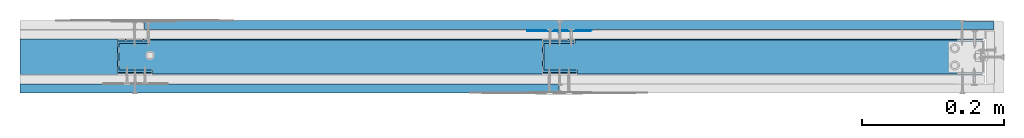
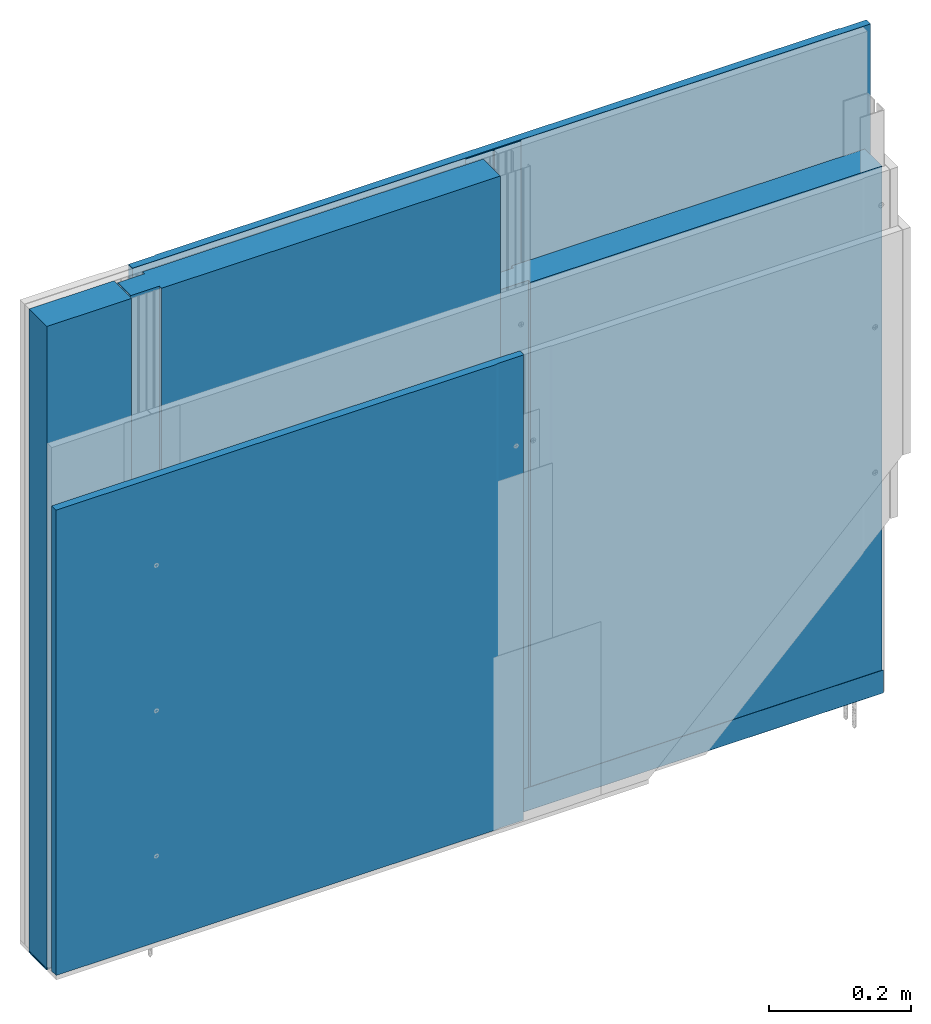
# One storey, part 1 of 52: 8 walls.
"""IFC2X3 building model written with IfcOpenShell, lengths in millimetres."""

import ifcopenshell
import ifcopenshell.guid

model = None  # the IFC model being written
_history = None  # IfcOwnerHistory: only IFC2X3 demands one
_inside = {}  # id of a spatial element -> (the spatial element, [elements in it])
_under = {}  # id of a project, library or spatial element -> (it, [spatial elements below it])
_declared = {}  # id of a project -> (the project, [libraries it declares])
_typed = {}  # id of a type object -> (the type object, [elements of that type])
_made_of = {}  # id of a material, layer set ... -> (it, [elements and type objects made of it])


def new_model(schema):
    """Start an empty IFC model of exactly this schema.

    Asked for "IFC4X3", IfcOpenShell would pick the latest addendum, in which some entities
    have other attributes; the version numbers below select the first issue.
    IFC2X3 requires an IfcOwnerHistory on every rooted entity: one is made here for all.
    """
    global model, _history
    if schema == "IFC4X3":
        model = ifcopenshell.file(schema_version=(4, 3, 0, 0))
    else:
        model = ifcopenshell.file(schema=schema)
    _inside.clear()
    _under.clear()
    _declared.clear()
    _typed.clear()
    _made_of.clear()
    _history = None
    if model.schema == "IFC2X3":
        org = make("IfcOrganization", Name="unknown")
        user = make(
            "IfcPersonAndOrganization",
            ThePerson=make("IfcPerson", FamilyName="unknown"),
            TheOrganization=org,
        )
        app = make(
            "IfcApplication",
            ApplicationDeveloper=org,
            Version="unknown",
            ApplicationFullName="unknown",
            ApplicationIdentifier="unknown",
        )
        _history = make(
            "IfcOwnerHistory",
            OwningUser=user,
            OwningApplication=app,
            ChangeAction="ADDED",
            CreationDate=0,
        )
    return model


def make(cls, **values):
    """One entity of the class cls with the attributes given. An attribute that is None is left unset."""
    return model.create_entity(
        cls, **{name: value for name, value in values.items() if value is not None}
    )


def entity(cls, *values):
    """Any entity or typed value of the class cls, its attributes in the order of the schema. None: left unset."""
    e = model.create_entity(cls)
    for i, value in enumerate(values):
        if value is not None:
            e[i] = value
    return e


def rooted(cls, **values):
    """An entity with a GlobalId (a new one), such as an element, a storey or a relation."""
    return make(cls, GlobalId=ifcopenshell.guid.new(), OwnerHistory=_history, **values)


def si_unit(unit_type, name, prefix=None):
    """IfcSIUnit, for example si_unit("LENGTHUNIT", "METRE", prefix="MILLI")."""
    return make("IfcSIUnit", UnitType=unit_type, Prefix=prefix, Name=name)


def converted_unit(unit_type, name, factor, base, dimensions=None, offset=None):
    """IfcConversionBasedUnit, such as the inch: factor (a typed value) times the base unit."""
    return make(
        "IfcConversionBasedUnit"
        if offset is None
        else "IfcConversionBasedUnitWithOffset",
        ConversionOffset=offset,
        Dimensions=None
        if dimensions is None
        else entity("IfcDimensionalExponents", *dimensions),
        UnitType=unit_type,
        Name=name,
        ConversionFactor=make(
            "IfcMeasureWithUnit", ValueComponent=factor, UnitComponent=base
        ),
    )


def assignment(units):
    """IfcUnitAssignment: the units of a project."""
    return None if units is None else make("IfcUnitAssignment", Units=units)


def point(xyz):
    """IfcCartesianPoint."""
    return None if xyz is None else make("IfcCartesianPoint", Coordinates=xyz)


def direction(xyz):
    """IfcDirection."""
    return None if xyz is None else make("IfcDirection", DirectionRatios=xyz)


def frame(location, z_axis=None, x_axis=None):
    """IfcAxis2Placement3D, a coordinate frame: its origin and axes. An axis left out is left unset."""
    return make(
        "IfcAxis2Placement3D",
        Location=point(location),
        Axis=direction(z_axis),
        RefDirection=direction(x_axis),
    )


def origin():
    """The frame at (0, 0, 0) with its axes left unset."""
    return frame((0.0, 0.0, 0.0))


def origin_with_axes():
    """The frame at (0, 0, 0) with the z axis (0, 0, 1) and the x axis (1, 0, 0) written out."""
    return frame((0.0, 0.0, 0.0), z_axis=(0.0, 0.0, 1.0), x_axis=(1.0, 0.0, 0.0))


def place(relative_to, where):
    """IfcLocalPlacement: puts the frame where relative to a parent placement (None: the world)."""
    return make(
        "IfcLocalPlacement", PlacementRelTo=relative_to, RelativePlacement=where
    )


def context(
    kind, dimensions, precision=None, world=None, true_north=None, identifier=None
):
    """IfcGeometricRepresentationContext, for example the 3D "Model" context."""
    return make(
        "IfcGeometricRepresentationContext",
        ContextIdentifier=identifier,
        ContextType=kind,
        CoordinateSpaceDimension=dimensions,
        Precision=precision,
        WorldCoordinateSystem=world,
        TrueNorth=true_north,
    )


def project(units=None, contexts=None):
    """IfcProject with its units and contexts."""
    return rooted(
        "IfcProject",
        Name="project",
        RepresentationContexts=contexts,
        UnitsInContext=assignment(units),
    )


def spatial(cls, under=None, at=None, **own):
    """A site, building, storey or space (cls), placed at a placement, below another one or the project."""
    s = rooted(cls, ObjectPlacement=at, **own)
    if under is not None:
        _under.setdefault(under.id(), (under, []))[1].append(s)
    return s


def faces_of(points, faces, orient=None, outer=None):
    """IfcFace entities. A face is a list of loops; a loop is a list of indices into points, from 0.

    orient and outer hold one flag for each loop. By default every Orientation is true, the
    first loop of a face is its IfcFaceOuterBound and the others are IfcFaceBound.
    """
    made = []
    for i, loops in enumerate(faces):
        bounds = []
        for j, loop in enumerate(loops):
            is_outer = j == 0 if outer is None else outer[i][j]
            bounds.append(
                make(
                    "IfcFaceOuterBound" if is_outer else "IfcFaceBound",
                    Bound=make("IfcPolyLoop", Polygon=[points[k] for k in loop]),
                    Orientation=True if orient is None else orient[i][j],
                )
            )
        made.append(make("IfcFace", Bounds=bounds))
    return made


def faceted_brep(points, faces, orient=None, outer=None, voids=None):
    """IfcFacetedBrep: a solid bounded by flat faces; with voids (closed shells), ...WithVoids."""
    shared = [point(p) for p in points]
    hull = make("IfcClosedShell", CfsFaces=faces_of(shared, faces, orient, outer))
    if voids is None:
        return make("IfcFacetedBrep", Outer=hull)
    return make(
        "IfcFacetedBrepWithVoids",
        Outer=hull,
        Voids=[
            make(cls, CfsFaces=faces_of(shared, fs, o, b)) for cls, fs, o, b in voids
        ],
    )


def shape(context_of_items, identifier, shape_type, items):
    """IfcShapeRepresentation: the items that make up one representation, for example the "Body"."""
    return make(
        "IfcShapeRepresentation",
        ContextOfItems=context_of_items,
        RepresentationIdentifier=identifier,
        RepresentationType=shape_type,
        Items=items,
    )


def made_of(thing, what):
    """Note that an element or type object is made of a material, layer set ...; save() writes the relation."""
    if what is not None:
        _made_of.setdefault(what.id(), (what, []))[1].append(thing)
    return thing


def element(
    cls,
    number,
    at=None,
    inside=None,
    cuts=None,
    type_object=None,
    material=None,
    context=None,
    identifier="Body",
    shape_type=None,
    held_by="IfcProductDefinitionShape",
    body=None,
    shapes=None,
    **own,
):
    """One element of the class cls, such as IfcWall. Its Tag is "e" and its number.

    at: its placement. inside: the storey or other place that contains it. cuts: it is an
    opening in that element (IfcRelVoidsElement). A single representation is given by context,
    identifier, shape_type and body (its items); several are given by shapes. held_by: the class
    of the entity that holds the representations. save() writes the other relations.
    """
    e = rooted(cls, Tag="e%d" % number, ObjectPlacement=at, **own)
    if body is not None:
        shapes = [shape(context, identifier, shape_type, body)]
    if shapes is not None:
        e.Representation = make(held_by, Representations=shapes)
    if inside is not None:
        _inside.setdefault(inside.id(), (inside, []))[1].append(e)
    if cuts is not None:
        rooted(
            "IfcRelVoidsElement", RelatingBuildingElement=cuts, RelatedOpeningElement=e
        )
    if type_object is not None:
        _typed.setdefault(type_object.id(), (type_object, []))[1].append(e)
    return made_of(e, material)


def aggregate(whole, parts):
    """IfcRelAggregates: a whole, such as a stair, and the parts it consists of."""
    return rooted("IfcRelAggregates", RelatingObject=whole, RelatedObjects=parts)


def save(model, path):
    """Write the relations noted so far, then the file.

    IfcRelAggregates (storeys below a building ...), IfcRelContainedInSpatialStructure (elements
    in a storey), IfcRelDefinesByType, IfcRelAssociatesMaterial and IfcRelDeclares: one each for
    every whole, place, type object, material and project.
    """
    for whole, parts in _under.values():
        aggregate(whole, parts)
    for where, things in _inside.values():
        rooted(
            "IfcRelContainedInSpatialStructure",
            RelatedElements=things,
            RelatingStructure=where,
        )
    for kind, things in _typed.values():
        rooted("IfcRelDefinesByType", RelatedObjects=things, RelatingType=kind)
    for what, things in _made_of.values():
        rooted("IfcRelAssociatesMaterial", RelatedObjects=things, RelatingMaterial=what)
    for by, libraries in _declared.values():
        rooted("IfcRelDeclares", RelatingContext=by, RelatedDefinitions=libraries)
    model.write(path)


model = new_model("IFC2X3")

# Units and contexts
model_context = context("Model", 3, precision=1e-05, world=origin(), true_north=direction((0.0, 1.0, 0.0)))
ifc_project = project(units=[si_unit("LENGTHUNIT", "METRE", prefix="MILLI"), si_unit("AREAUNIT", "SQUARE_METRE"), si_unit("VOLUMEUNIT", "CUBIC_METRE"), converted_unit("PLANEANGLEUNIT", "DEGREE", entity("IfcPlaneAngleMeasure", 0.01745), si_unit("PLANEANGLEUNIT", "RADIAN"), dimensions=[0, 0, 0, 0, 0, 0, 0]), si_unit("SOLIDANGLEUNIT", "STERADIAN"), si_unit("MASSUNIT", "GRAM"), si_unit("TIMEUNIT", "SECOND"), si_unit("THERMODYNAMICTEMPERATUREUNIT", "DEGREE_CELSIUS"), si_unit("LUMINOUSINTENSITYUNIT", "LUMEN")], contexts=[model_context])

# Site, building, storey
site_placement = place(None, origin_with_axes())
site = spatial("IfcSite", under=ifc_project, at=site_placement, Name="Default Site", CompositionType="ELEMENT")
building_placement = place(site_placement, origin_with_axes())
building = spatial("IfcBuilding", under=site, at=building_placement, Name="Default Building", CompositionType="ELEMENT")
storey_placement = place(building_placement, origin_with_axes())
storey = spatial("IfcBuildingStorey", under=building, at=storey_placement, Name="Default Building Storey", CompositionType="ELEMENT", Elevation=0.0)

# Walls
wall_1_placement = place(storey_placement, frame((3623.888865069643, -1355.915798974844, 353.1766678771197), z_axis=(0.0, 0.0, 1.0), x_axis=(1.0, 0.0, 0.0)))
element("IfcWall", 1, at=wall_1_placement, inside=storey, Name="Dedykowana masa szpachlowa Rigips - konstrukcyjna", context=model_context, shape_type="Brep", body=[
    faceted_brep([(-737.4838396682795, 3387.669590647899, 806.8233321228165), (-737.4592163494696, 3387.356721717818, 806.8233321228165), (-737.4345930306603, 3387.669590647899, 806.8233321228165), (-737.3613293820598, 3387.974755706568, 806.8233321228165), (-737.2412293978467, 3388.264702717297, 806.8233321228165), (-737.0772503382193, 3388.532292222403, 806.8233321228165), (-736.8734299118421, 3388.770935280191, 806.8233321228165), (-736.6347868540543, 3388.974755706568, 806.8233321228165), (-736.3671973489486, 3389.138734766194, 806.8233321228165), (-736.0772503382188, 3389.258834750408, 806.8233321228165), (-735.7720852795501, 3389.332098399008, 806.8233321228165), (-735.4592163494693, 3389.356721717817, 806.8233321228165), (-692.4592163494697, 3389.356721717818, 806.8233321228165), (-691.4592163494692, 3390.556721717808, 806.8233321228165), (-782.4592163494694, 3390.556721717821, 806.8233321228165), (-782.4592163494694, 3389.356721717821, 806.8233321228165), (-739.4592163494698, 3389.356721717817, 806.8233321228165), (-739.146347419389, 3389.332098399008, 806.8233321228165), (-738.8411823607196, 3389.258834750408, 806.8233321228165), (-738.5512353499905, 3389.138734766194, 806.8233321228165), (-738.2836458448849, 3388.974755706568, 806.8233321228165), (-738.045002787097, 3388.770935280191, 806.8233321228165), (-737.8411823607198, 3388.532292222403, 806.8233321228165), (-737.6772033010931, 3388.264702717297, 806.8233321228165), (-737.5571033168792, 3387.974755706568, 806.8233321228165), (-691.4592163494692, 3390.556721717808, -293.1782495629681), (-692.4592163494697, 3389.356721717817, -293.1782495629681), (-735.4592163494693, 3389.356721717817, -293.1782495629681), (-735.7720852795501, 3389.332098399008, -293.1782495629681), (-736.0772503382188, 3389.258834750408, -293.1782495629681), (-736.3671973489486, 3389.138734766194, -293.1782495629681), (-736.6347868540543, 3388.974755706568, -293.1782495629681), (-736.8734299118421, 3388.77093528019, -293.1782495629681), (-737.0772503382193, 3388.532292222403, -293.1782495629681), (-737.2412293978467, 3388.264702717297, -293.1782495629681), (-737.3613293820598, 3387.974755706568, -293.1782495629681), (-737.4345930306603, 3387.669590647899, -293.1782495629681), (-737.4592163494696, 3387.356721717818, -293.1782495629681), (-737.4838396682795, 3387.669590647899, -293.1782495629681), (-737.5571033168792, 3387.974755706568, -293.1782495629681), (-737.6772033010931, 3388.264702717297, -293.1782495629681), (-737.8411823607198, 3388.532292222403, -293.1782495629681), (-738.045002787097, 3388.77093528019, -293.1782495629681), (-738.2836458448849, 3388.974755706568, -293.1782495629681), (-738.5512353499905, 3389.138734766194, -293.1782495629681), (-738.8411823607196, 3389.258834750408, -293.1782495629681), (-739.146347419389, 3389.332098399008, -293.1782495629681), (-739.4592163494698, 3389.356721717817, -293.1782495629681), (-782.4592163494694, 3389.356721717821, -293.1782495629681), (-782.4592163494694, 3390.556721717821, -293.1782495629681)], [[[0, 1, 2, 3, 4, 5, 6, 7, 8, 9, 10, 11, 12, 13, 14, 15, 16, 17, 18, 19, 20, 21, 22, 23, 24]], [[25, 26, 27, 28, 29, 30, 31, 32, 33, 34, 35, 36, 37, 38, 39, 40, 41, 42, 43, 44, 45, 46, 47, 48, 49]], [[26, 12, 11, 27]], [[10, 9, 29, 28]], [[28, 27, 11, 10]], [[8, 30, 29, 9]], [[7, 6, 32, 31]], [[31, 30, 8, 7]], [[5, 4, 34, 33]], [[33, 32, 6, 5]], [[3, 35, 34, 4]], [[2, 1, 37, 36]], [[36, 35, 3, 2]], [[0, 24, 39, 38]], [[38, 37, 1, 0]], [[23, 40, 39, 24]], [[22, 21, 42, 41]], [[41, 40, 23, 22]], [[20, 19, 44, 43]], [[43, 42, 21, 20]], [[18, 45, 44, 19]], [[17, 16, 47, 46]], [[46, 45, 18, 17]], [[47, 16, 15, 48]], [[48, 15, 14, 49]], [[49, 14, 13, 25]], [[25, 13, 12, 26]]]),
])
wall_2_placement = place(storey_placement, frame((3500.929648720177, 2035.640922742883, 1465.555457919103), z_axis=(0.0, 0.0, 1.0), x_axis=(-1.0, -8.049116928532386e-16, 0.0)))
element("IfcWall", 2, at=wall_2_placement, inside=storey, Name="Płyta gipsowo-kartonowa RIGIPS PRO (4PRO™)", context=model_context, shape_type="Brep", body=[
    faceted_brep([(1199.866025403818, -10.99999999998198, -305.5554579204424), (1199.965925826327, -10.75881904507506, -305.5554579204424), (1199.965925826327, -10.75881904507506, -1405.557039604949), (1199.866025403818, -10.99999999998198, -1405.557039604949), (1199.707106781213, -11.20710678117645, -305.5554579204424), (1199.707106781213, -11.20710678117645, -1405.557039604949), (1199.50000000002, -11.36602540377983, -305.5554579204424), (1199.50000000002, -11.36602540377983, -1405.557039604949), (1199.258819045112, -11.46592582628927, -305.5554579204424), (1199.258819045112, -11.46592582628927, -1405.557039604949), (1199.0, -11.50000000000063, -305.5554579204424), (1199.0, -11.50000000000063, -1405.557039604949), (1158.999999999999, -11.50000000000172, -305.5554579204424), (1158.999999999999, -11.50000000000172, -1405.557039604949), (1155.000000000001, -12.49999999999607, -305.5554579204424), (1155.000000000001, -12.49999999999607, -1405.557039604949), (44.99999999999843, -12.50000000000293, -305.5554579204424), (44.99999999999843, -12.50000000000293, -1405.557039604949), (40.99999999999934, -11.50000000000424, -305.5554579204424), (40.99999999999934, -11.50000000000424, -1405.557039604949), (0.9999999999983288, -11.5000000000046, -305.5554579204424), (0.9999999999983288, -11.5000000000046, -1405.557039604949), (0.7411809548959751, -11.46592582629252, -305.5554579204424), (0.7411809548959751, -11.46592582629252, -1405.557039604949), (0.4999999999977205, -11.3660254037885, -305.5554579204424), (0.4999999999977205, -11.3660254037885, -1405.557039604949), (0.29289321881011, -11.20710678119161, -305.5554579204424), (0.29289321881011, -11.20710678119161, -1405.557039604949), (0.1339745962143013, -11.00000000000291, -305.5554579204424), (0.1339745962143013, -11.00000000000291, -1405.557039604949), (0.03407417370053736, -10.7588190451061, -305.5554579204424), (0.03407417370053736, -10.7588190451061, -1405.557039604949), (-2.887645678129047e-12, -10.50000000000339, -305.5554579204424), (-2.887645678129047e-12, -10.50000000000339, -1405.557039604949), (0.0, 0.0, -305.5554579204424), (0.0, 0.0, -1405.557039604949), (1200.0, 0.0, -305.5554579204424), (1200.0, 0.0, -1405.557039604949), (1200.000000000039, -10.49999999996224, -305.5554579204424), (1200.000000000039, -10.49999999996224, -1405.557039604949)], [[[0, 1, 2, 3]], [[4, 0, 3, 5]], [[6, 4, 5, 7]], [[8, 6, 7, 9]], [[10, 8, 9, 11]], [[12, 10, 11, 13]], [[14, 12, 13, 15]], [[16, 14, 15, 17]], [[18, 16, 17, 19]], [[20, 18, 19, 21]], [[22, 20, 21, 23]], [[24, 22, 23, 25]], [[26, 24, 25, 27]], [[28, 26, 27, 29]], [[30, 28, 29, 31]], [[32, 30, 31, 33]], [[34, 32, 33, 35]], [[36, 34, 35, 37]], [[38, 36, 37, 39]], [[1, 38, 39, 2]], [[2, 39, 37, 35, 33, 31, 29, 27, 25, 23, 21, 19, 17, 15, 13, 11, 9, 7, 5, 3]], [[12, 14, 16, 18, 20, 22, 24, 26, 28, 30, 32, 34, 36, 38, 1, 0, 4, 6, 8, 10]]]),
])
wall_3_placement = place(storey_placement, frame((935.9872247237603, -1459.142300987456, 58.60556539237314), z_axis=(-7.954104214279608e-14, 7.158693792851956e-13, 1.0), x_axis=(-1.0, 1.734723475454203e-16, -7.300266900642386e-14)))
element("IfcWall", 3, at=wall_3_placement, inside=storey, Name="Wełna mineralna szklana lub skalna ISOVER", context=model_context, shape_type="Brep", body=[
    faceted_brep([(-1189.0379087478, -3431.378708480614, 1101.394434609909), (-1189.037908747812, -3431.378708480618, -2.434062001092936), (-1189.037908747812, -3481.283223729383, -2.434062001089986), (-1189.0379087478, -3481.283223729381, 1101.394434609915), (-1326.882312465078, -3431.378708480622, 1101.394434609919), (-1326.88231246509, -3431.378708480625, -2.434062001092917), (-1326.882312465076, -3481.283223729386, 1101.394434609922), (-1309.923547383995, -3481.283223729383, 1101.394434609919), (-1326.882312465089, -3481.28322372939, -2.434062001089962), (-1309.923547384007, -3481.28322372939, -2.43406200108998)], [[[0, 1, 2, 3]], [[1, 0, 4, 5]], [[6, 4, 0, 3, 7]], [[6, 8, 5, 4]], [[8, 6, 7, 9]], [[3, 2, 9, 7]], [[8, 9, 2, 1, 5]]]),
])
wall_4_placement = place(storey_placement, frame((3026.490947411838, 5452.424146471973, 58.80061149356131), z_axis=(0.0, 0.0, 1.0), x_axis=(1.0, 0.0, 0.0)))
element("IfcWall", 4, at=wall_4_placement, inside=storey, Name="Wełna mineralna szklana lub skalna ISOVER", context=model_context, shape_type="Brep", body=[
    faceted_brep([(-161.2958819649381, -3473.633223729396, -3.060216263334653), (-161.2958819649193, -3473.633223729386, 901.1993885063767), (-114.6214102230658, -3473.633223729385, 901.1993885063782), (-114.6214102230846, -3473.633223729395, -3.060216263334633), (-114.6214102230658, -3479.633223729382, 901.1993885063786), (-114.6214102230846, -3479.633223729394, -3.06021626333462), (-161.2958819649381, -3436.833223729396, -3.060216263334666), (-161.2958819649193, -3436.833223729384, 901.1993885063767), (-117.6214102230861, -3436.833223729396, -3.060216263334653), (-117.6214102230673, -3436.833223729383, 901.199388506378), (-117.6214102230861, -3431.283223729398, -3.060216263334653), (456.9387013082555, -3431.283223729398, -3.060216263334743), (456.9387013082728, -3431.283223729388, 901.1993885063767), (-117.6214102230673, -3431.283223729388, 901.1993885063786), (456.9387013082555, -3479.633223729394, -3.060216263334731), (456.9387013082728, -3479.633223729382, 901.1993885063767)], [[[0, 1, 2, 3]], [[3, 2, 4, 5]], [[1, 0, 6, 7]], [[7, 6, 8, 9]], [[10, 11, 12, 13]], [[9, 8, 10, 13]], [[3, 5, 14, 11, 10, 8, 6, 0]], [[4, 15, 14, 5]], [[15, 4, 2, 1, 7, 9, 13, 12]], [[14, 15, 12, 11]]]),
])
wall_5_placement = place(storey_placement, frame((2412.059826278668, 5452.424146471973, 58.67213791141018), z_axis=(0.0, 0.0, 1.0), x_axis=(1.0, 0.0, 0.0)))
element("IfcWall", 5, at=wall_5_placement, inside=storey, Name="Wełna mineralna szklana lub skalna ISOVER", context=model_context, shape_type="Brep", body=[
    faceted_brep([(-146.8402890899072, -3473.633223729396, -2.931742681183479), (-146.8402890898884, -3473.633223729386, 1101.327862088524), (-100.190289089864, -3473.633223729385, 1101.327862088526), (-100.1902890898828, -3473.633223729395, -2.931742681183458), (-100.190289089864, -3479.633223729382, 1101.327862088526), (-100.1902890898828, -3479.633223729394, -2.93174268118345), (-146.8402890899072, -3436.833223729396, -2.931742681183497), (-146.8402890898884, -3436.833223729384, 1101.327862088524), (-103.1902890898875, -3436.833223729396, -2.931742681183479), (-103.1902890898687, -3436.833223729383, 1101.327862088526), (-103.1902890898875, -3431.283223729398, -2.93174268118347), (450.8097109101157, -3431.283223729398, -2.931742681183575), (450.8097109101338, -3431.283223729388, 1101.327862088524), (-103.1902890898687, -3431.283223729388, 1101.327862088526), (450.8097109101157, -3479.633223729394, -2.931742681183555), (450.8097109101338, -3479.633223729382, 1101.327862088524)], [[[0, 1, 2, 3]], [[3, 2, 4, 5]], [[1, 0, 6, 7]], [[7, 6, 8, 9]], [[10, 11, 12, 13]], [[9, 8, 10, 13]], [[3, 5, 14, 11, 10, 8, 6, 0]], [[4, 15, 14, 5]], [[15, 4, 2, 1, 7, 9, 13, 12]], [[14, 15, 12, 11]]]),
])
wall_6_placement = place(storey_placement, frame((2886.242430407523, 1958.680077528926, 1109.999999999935), z_axis=(0.0, 0.0, 1.0), x_axis=(-1.0, 6.389333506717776e-13, 0.0)))
element("IfcWall", 6, at=wall_6_placement, inside=storey, Name="Płyta gipsowo-kartonowa RIGIPS PRO (4PRO™)", context=model_context, shape_type="Brep", body=[
    faceted_brep([(761.2172969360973, 12.49999999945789, -249.9999999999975), (761.2172969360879, -5.143618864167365e-10, -249.9999999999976), (761.217296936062, -5.111132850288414e-10, -1050.001581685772), (761.2172969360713, 12.49999999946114, -1050.001581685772), (44.99999999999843, 12.50000000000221, -249.9999999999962), (40.99999999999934, 11.50000000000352, -249.9999999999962), (0.9999999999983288, 11.50000000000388, -249.9999999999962), (0.7411809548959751, 11.46592582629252, -249.9999999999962), (0.4999999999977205, 11.3660254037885, -249.9999999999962), (0.29289321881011, 11.20710678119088, -249.9999999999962), (0.1339745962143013, 11.00000000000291, -249.9999999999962), (0.03407417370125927, 10.7588190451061, -249.9999999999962), (-2.165734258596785e-12, 10.50000000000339, -249.9999999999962), (0.0, 0.0, -249.9999999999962), (44.99999999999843, 12.50000000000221, -1050.001581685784), (40.99999999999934, 11.50000000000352, -1050.001581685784), (0.9999999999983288, 11.50000000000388, -1050.001581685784), (0.7411809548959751, 11.46592582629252, -1050.001581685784), (0.4999999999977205, 11.3660254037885, -1050.001581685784), (0.29289321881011, 11.20710678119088, -1050.001581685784), (0.1339745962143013, 11.00000000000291, -1050.001581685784), (0.03407417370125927, 10.7588190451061, -1050.001581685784), (-2.165734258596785e-12, 10.50000000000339, -1050.001581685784), (0.0, 0.0, -1050.001581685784)], [[[0, 1, 2, 3]], [[0, 4, 5, 6, 7, 8, 9, 10, 11, 12, 13, 1]], [[3, 14, 4, 0]], [[5, 4, 14, 15]], [[6, 5, 15, 16]], [[7, 6, 16, 17]], [[8, 7, 17, 18]], [[9, 8, 18, 19]], [[10, 9, 19, 20]], [[11, 10, 20, 21]], [[12, 11, 21, 22]], [[13, 12, 22, 23]], [[2, 1, 13, 23]], [[14, 3, 2, 23, 22, 21, 20, 19, 18, 17, 16, 15]]]),
])
wall_7_placement = place(storey_placement, frame((3228.336294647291, 5452.424146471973, 58.39039522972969), z_axis=(7.620176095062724e-14, -6.858158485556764e-13, 1.0), x_axis=(1.0, -9.71445146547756e-17, -7.620176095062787e-14)))
element("IfcWall", 7, at=wall_7_placement, inside=storey, Name="Taśma uszczelniająca piankowa RIGIPS", context=model_context, shape_type="Brep", body=[
    faceted_brep([(-1103.311161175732, -3477.783223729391, -5.000000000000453), (-1103.311161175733, -3477.862841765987, -6.006369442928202), (-1103.311161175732, -3432.691889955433, -5.864971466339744), (-1103.311161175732, -3432.78322372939, -5.000000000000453), (256.684842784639, -3477.862841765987, -6.006369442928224), (256.684842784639, -3477.783223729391, -5.000000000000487), (256.684842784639, -3432.78322372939, -5.000000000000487), (256.684842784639, -3432.691889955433, -5.864971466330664)], [[[0, 1, 2, 3]], [[4, 5, 6, 7]], [[5, 0, 3, 6]], [[6, 3, 2, 7]], [[7, 2, 1, 4]], [[4, 1, 0, 5]]]),
])
wall_8_placement = place(storey_placement, frame((3223.771401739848, 5452.424146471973, 58.39039522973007), z_axis=(7.620176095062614e-14, -6.858158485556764e-13, 1.0), x_axis=(1.0, -9.71445146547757e-17, -7.620176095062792e-14)))
element("IfcWall", 8, at=wall_8_placement, inside=storey, Name="Profil RIGIPS UW 50 ULTRASTIL®", context=model_context, shape_type="Brep", body=[
    faceted_brep([(-951.3807471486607, -3470.476261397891, -4.901701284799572), (-951.3807471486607, -3470.287116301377, -4.78341046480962), (-951.3807471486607, -3470.128902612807, -4.626130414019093), (-1098.746268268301, -3470.128902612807, -4.626130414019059), (-1098.746268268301, -3470.476261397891, -4.901701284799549), (-951.3807471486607, -3470.063927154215, -4.535249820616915), (-951.3807471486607, -3470.009494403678, -4.437688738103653), (-1098.746268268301, -3470.009494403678, -4.43768873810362), (-951.3807471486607, -3440.2793311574, -4.783410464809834), (-951.3807471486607, -3440.090186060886, -4.901701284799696), (-951.3807471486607, -3439.879523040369, -4.975115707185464), (-1098.746268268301, -3439.879523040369, -4.975115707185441), (-1098.746268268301, -3440.2793311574, -4.783410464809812), (-951.3807471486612, -3440.819375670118, -2.866589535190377), (-951.3807471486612, -3441.008520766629, -2.748298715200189), (-951.3807471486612, -3441.219183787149, -2.674884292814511), (-1098.746268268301, -3441.219183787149, -2.674884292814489), (-1098.746268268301, -3440.819375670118, -2.866589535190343), (-951.3807471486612, -3469.557926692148, -2.748298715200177), (-951.3807471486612, -3469.747071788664, -2.866589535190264), (-951.3807471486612, -3469.905285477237, -3.02386958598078), (-1098.746268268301, -3469.905285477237, -3.023869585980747), (-1098.746268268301, -3469.557926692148, -2.748298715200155), (-1098.746268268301, -3479.733223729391, 35.00000000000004), (-1098.746268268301, -3480.283223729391, 35.00000000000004), (-1098.746268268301, -3480.283223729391, -4.199999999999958), (-1098.746268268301, -3480.273374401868, -4.325147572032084), (-1098.746268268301, -3480.244068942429, -4.447213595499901), (-1098.746268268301, -3480.196028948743, -4.563192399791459), (-1098.746268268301, -3480.130437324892, -4.670228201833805), (-1098.746268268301, -3480.048909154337, -4.765685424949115), (-1098.746268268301, -3479.953451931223, -4.847213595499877), (-1098.746268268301, -3479.84641612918, -4.912805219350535), (-1098.746268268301, -3479.730437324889, -4.960845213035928), (-1098.746268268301, -3479.608371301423, -4.990150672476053), (-1098.746268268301, -3479.483223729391, -4.999999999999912), (-1098.746268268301, -3470.908620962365, -4.999999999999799), (-1098.746268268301, -3470.686924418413, -4.975115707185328), (-1098.746268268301, -3469.680725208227, -3.762311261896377), (-1098.746268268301, -3469.561316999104, -3.573869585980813), (-1098.746268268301, -3469.403103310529, -3.416589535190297), (-1098.746268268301, -3469.213958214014, -3.298298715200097), (-1098.746268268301, -3469.003295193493, -3.224884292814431), (-1098.746268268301, -3468.781598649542, -3.19999999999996), (-1098.746268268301, -3441.78484880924, -3.199999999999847), (-1098.746268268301, -3441.563152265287, -3.224884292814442), (-1098.746268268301, -3441.352489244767, -3.298298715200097), (-1098.746268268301, -3441.163344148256, -3.416589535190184), (-1098.746268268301, -3441.005130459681, -3.573869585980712), (-1098.746268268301, -3440.88572225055, -3.762311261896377), (-1098.746268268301, -3440.556953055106, -4.43768873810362), (-1098.746268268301, -3440.437544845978, -4.626130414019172), (-1098.746268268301, -3439.657826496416, -4.999999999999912), (-1098.746268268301, -3431.083223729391, -4.999999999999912), (-1098.746268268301, -3430.958076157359, -4.990150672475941), (-1098.746268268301, -3430.836010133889, -4.960845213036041), (-1098.746268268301, -3430.720031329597, -4.912805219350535), (-1098.746268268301, -3430.612995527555, -4.847213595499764), (-1098.746268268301, -3430.517538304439, -4.76568542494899), (-1098.746268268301, -3430.436010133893, -4.670228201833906), (-1098.746268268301, -3430.370418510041, -4.563192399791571), (-1098.746268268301, -3430.322378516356, -4.447213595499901), (-1098.746268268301, -3430.293073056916, -4.325147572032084), (-1098.746268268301, -3430.283223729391, -4.199999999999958), (-1098.746268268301, -3430.283223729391, 35.00000000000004), (-1098.746268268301, -3430.833223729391, 35.00000000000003), (-1098.746268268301, -3430.833223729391, -4.199999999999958), (-1098.746268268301, -3430.836301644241, -4.239108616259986), (-1098.746268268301, -3430.845459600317, -4.277254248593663), (-1098.746268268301, -3430.860472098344, -4.313497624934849), (-1098.746268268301, -3430.880969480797, -4.346946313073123), (-1098.746268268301, -3430.906447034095, -4.37677669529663), (-1098.746268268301, -3430.936277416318, -4.402254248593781), (-1098.746268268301, -3430.969726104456, -4.422751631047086), (-1098.746268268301, -3431.005969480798, -4.437764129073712), (-1098.746268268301, -3431.044115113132, -4.446922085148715), (-1098.746268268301, -3431.083223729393, -4.449999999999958), (-1098.746268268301, -3439.313858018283, -4.450000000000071), (-1098.746268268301, -3439.535554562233, -4.425115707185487), (-1098.746268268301, -3439.746217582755, -4.35170128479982), (-1098.746268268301, -3439.935362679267, -4.233410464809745), (-1098.746268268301, -3440.093576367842, -4.076130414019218), (-1098.746268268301, -3440.212984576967, -3.887688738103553), (-1098.746268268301, -3440.541753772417, -3.212311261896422), (-1098.746268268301, -3440.661161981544, -3.023869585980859), (-1098.746268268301, -3441.440880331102, -2.650000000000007), (-1098.746268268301, -3469.125567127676, -2.649999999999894), (-1098.746268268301, -3469.347263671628, -2.674884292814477), (-1098.746268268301, -3470.024693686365, -3.212311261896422), (-1098.746268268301, -3470.35346288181, -3.887688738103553), (-1098.746268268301, -3470.47287109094, -4.076130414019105), (-1098.746268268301, -3470.631084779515, -4.233410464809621), (-1098.746268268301, -3470.820229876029, -4.35170128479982), (-1098.746268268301, -3471.03089289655, -4.425115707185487), (-1098.746268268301, -3471.252589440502, -4.449999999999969), (-1098.746268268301, -3479.483223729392, -4.449999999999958), (-1098.746268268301, -3479.522332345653, -4.446922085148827), (-1098.746268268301, -3479.560477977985, -4.437764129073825), (-1098.746268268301, -3479.596721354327, -4.422751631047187), (-1098.746268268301, -3479.630170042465, -4.402254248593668), (-1098.746268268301, -3479.660000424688, -4.37677669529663), (-1098.746268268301, -3479.685477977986, -4.346946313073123), (-1098.746268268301, -3479.705975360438, -4.31349762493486), (-1098.746268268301, -3479.720987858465, -4.277254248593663), (-1098.746268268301, -3479.73014581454, -4.239108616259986), (-1098.746268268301, -3479.733223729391, -4.199999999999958), (261.2497356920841, -3480.283223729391, -4.200000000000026), (261.249735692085, -3480.283223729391, 35.00000000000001), (261.249735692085, -3479.733223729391, 35.00000000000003), (261.2497356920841, -3479.733223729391, -4.200000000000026), (261.2497356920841, -3479.730145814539, -4.239108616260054), (261.2497356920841, -3479.720987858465, -4.277254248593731), (261.2497356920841, -3479.705975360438, -4.313497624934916), (261.2497356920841, -3479.685477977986, -4.346946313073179), (261.2497356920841, -3479.660000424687, -4.376776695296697), (261.2497356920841, -3479.630170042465, -4.402254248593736), (261.2497356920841, -3479.596721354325, -4.422751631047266), (261.2497356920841, -3479.560477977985, -4.437764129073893), (261.2497356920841, -3479.522332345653, -4.446922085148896), (261.2497356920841, -3479.483223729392, -4.450000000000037), (261.2497356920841, -3471.252589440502, -4.450000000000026), (261.2497356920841, -3471.030892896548, -4.425115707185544), (261.2497356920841, -3470.820229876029, -4.351701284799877), (261.2497356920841, -3470.631084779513, -4.233410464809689), (261.2497356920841, -3470.47287109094, -4.076130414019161), (261.2497356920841, -3470.35346288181, -3.887688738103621), (261.2497356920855, -3470.024693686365, -3.21231126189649), (261.2497356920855, -3469.905285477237, -3.023869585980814), (261.2497356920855, -3469.747071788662, -2.866589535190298), (261.2497356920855, -3469.557926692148, -2.748298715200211), (261.2497356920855, -3469.347263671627, -2.674884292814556), (261.2497356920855, -3469.125567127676, -2.64999999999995), (261.2497356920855, -3441.4408803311, -2.650000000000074), (261.2497356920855, -3441.219183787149, -2.674884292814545), (261.2497356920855, -3441.008520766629, -2.748298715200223), (261.2497356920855, -3440.819375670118, -2.866589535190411), (261.2497356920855, -3440.661161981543, -3.023869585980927), (261.2497356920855, -3440.541753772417, -3.212311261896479), (261.2497356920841, -3440.212984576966, -3.88768873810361), (261.2497356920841, -3440.09357636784, -4.076130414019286), (261.2497356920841, -3439.935362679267, -4.233410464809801), (261.2497356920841, -3439.746217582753, -4.351701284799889), (261.2497356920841, -3439.535554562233, -4.425115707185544), (261.2497356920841, -3439.313858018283, -4.450000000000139), (261.2497356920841, -3431.083223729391, -4.450000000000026), (261.2497356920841, -3431.044115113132, -4.446922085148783), (261.2497356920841, -3431.005969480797, -4.43776412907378), (261.2497356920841, -3430.969726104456, -4.422751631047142), (261.2497356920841, -3430.936277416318, -4.402254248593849), (261.2497356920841, -3430.906447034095, -4.376776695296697), (261.2497356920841, -3430.880969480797, -4.34694631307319), (261.2497356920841, -3430.860472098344, -4.313497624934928), (261.2497356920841, -3430.845459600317, -4.277254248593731), (261.2497356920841, -3430.836301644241, -4.239108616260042), (261.2497356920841, -3430.833223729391, -4.200000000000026), (261.249735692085, -3430.833223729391, 35.00000000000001), (261.249735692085, -3430.283223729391, 35.00000000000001), (261.2497356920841, -3430.283223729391, -4.200000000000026), (261.2497356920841, -3430.293073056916, -4.32514757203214), (261.2497356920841, -3430.322378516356, -4.44721359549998), (261.2497356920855, -3430.370418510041, -4.56319239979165), (261.2497356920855, -3430.436010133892, -4.670228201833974), (261.2497356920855, -3430.517538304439, -4.765685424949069), (261.2497356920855, -3430.612995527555, -4.847213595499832), (261.2497356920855, -3430.720031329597, -4.912805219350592), (261.2497356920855, -3430.836010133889, -4.960845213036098), (261.2497356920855, -3430.958076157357, -4.99015067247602), (261.2497356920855, -3431.083223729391, -4.99999999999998), (261.2497356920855, -3439.657826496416, -4.99999999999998), (261.2497356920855, -3439.879523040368, -4.975115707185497), (261.2497356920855, -3440.090186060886, -4.90170128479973), (261.2497356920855, -3440.2793311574, -4.783410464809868), (261.2497356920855, -3440.437544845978, -4.626130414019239), (261.2497356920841, -3440.556953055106, -4.437688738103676), (261.2497356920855, -3440.885722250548, -3.762311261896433), (261.2497356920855, -3441.005130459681, -3.573869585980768), (261.2497356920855, -3441.163344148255, -3.416589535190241), (261.2497356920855, -3441.352489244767, -3.298298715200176), (261.2497356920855, -3441.563152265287, -3.224884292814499), (261.2497356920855, -3441.78484880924, -3.199999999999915), (261.2497356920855, -3468.781598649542, -3.200000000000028), (261.2497356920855, -3469.003295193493, -3.22488429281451), (261.2497356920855, -3469.213958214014, -3.298298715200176), (261.2497356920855, -3469.403103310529, -3.416589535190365), (261.2497356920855, -3469.561316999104, -3.573869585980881), (261.2497356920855, -3469.680725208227, -3.762311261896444), (261.2497356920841, -3470.009494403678, -4.437688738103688), (261.2497356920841, -3470.063927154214, -4.535249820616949), (261.2497356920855, -3470.128902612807, -4.626130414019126), (261.2497356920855, -3470.287116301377, -4.783410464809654), (261.2497356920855, -3470.476261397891, -4.901701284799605), (261.2497356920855, -3470.686924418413, -4.975115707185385), (261.2497356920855, -3470.908620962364, -4.999999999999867), (261.2497356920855, -3479.483223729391, -4.999999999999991), (261.2497356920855, -3479.608371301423, -4.990150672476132), (261.2497356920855, -3479.730437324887, -4.960845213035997), (261.2497356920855, -3479.84641612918, -4.912805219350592), (261.2497356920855, -3479.953451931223, -4.847213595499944), (261.2497356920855, -3480.048909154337, -4.765685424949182), (261.2497356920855, -3480.130437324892, -4.670228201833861), (261.2497356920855, -3480.196028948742, -4.563192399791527), (261.2497356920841, -3480.244068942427, -4.447213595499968), (261.2497356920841, -3480.273374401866, -4.325147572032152)], [[[0, 1, 2, 3, 4]], [[2, 5, 6, 7, 3]], [[8, 9, 10, 11, 12]], [[13, 14, 15, 16, 17]], [[18, 19, 20, 21, 22]], [[23, 24, 25, 26, 27, 28, 29, 30, 31, 32, 33, 34, 35, 36, 37, 4, 3, 7, 38, 39, 40, 41, 42, 43, 44, 45, 46, 47, 48, 49, 50, 51, 12, 11, 52, 53, 54, 55, 56, 57, 58, 59, 60, 61, 62, 63, 64, 65, 66, 67, 68, 69, 70, 71, 72, 73, 74, 75, 76, 77, 78, 79, 80, 81, 82, 83, 84, 17, 16, 85, 86, 87, 22, 21, 88, 89, 90, 91, 92, 93, 94, 95, 96, 97, 98, 99, 100, 101, 102, 103, 104, 105]], [[106, 107, 108, 109, 110, 111, 112, 113, 114, 115, 116, 117, 118, 119, 120, 121, 122, 123, 124, 125, 126, 127, 128, 129, 130, 131, 132, 133, 134, 135, 136, 137, 138, 139, 140, 141, 142, 143, 144, 145, 146, 147, 148, 149, 150, 151, 152, 153, 154, 155, 156, 157, 158, 159, 160, 161, 162, 163, 164, 165, 166, 167, 168, 169, 170, 171, 172, 173, 174, 175, 176, 177, 178, 179, 180, 181, 182, 183, 184, 185, 186, 187, 188, 189, 190, 191, 192, 193, 194, 195, 196, 197, 198, 199, 200, 201, 202]], [[63, 157, 156, 64]], [[64, 156, 155, 65]], [[65, 155, 154, 66]], [[144, 76, 75, 145]], [[74, 146, 145, 75]], [[73, 147, 146, 74]], [[147, 73, 72, 148]], [[71, 149, 148, 72]], [[149, 71, 70, 150]], [[69, 151, 150, 70]], [[68, 152, 151, 69]], [[152, 68, 67, 153]], [[66, 154, 153, 67]], [[76, 144, 143, 77]], [[81, 139, 138, 82]], [[80, 140, 139, 81]], [[79, 141, 140, 80]], [[143, 142, 78, 77]], [[78, 142, 141, 79]], [[82, 138, 137, 83]], [[15, 133, 132, 85, 16]], [[14, 134, 133, 15]], [[13, 135, 134, 14]], [[84, 136, 135, 13, 17]], [[137, 136, 84, 83]], [[85, 132, 131, 86]], [[20, 127, 126, 88, 21]], [[19, 128, 127, 20]], [[18, 129, 128, 19]], [[87, 130, 129, 18, 22]], [[131, 130, 87, 86]], [[88, 126, 125, 89]], [[93, 121, 120, 94]], [[92, 122, 121, 93]], [[91, 123, 122, 92]], [[125, 124, 90, 89]], [[90, 124, 123, 91]], [[94, 120, 119, 95]], [[109, 105, 104, 110]], [[103, 111, 110, 104]], [[102, 112, 111, 103]], [[112, 102, 101, 113]], [[100, 114, 113, 101]], [[114, 100, 99, 115]], [[98, 116, 115, 99]], [[97, 117, 116, 98]], [[117, 97, 96, 118]], [[95, 119, 118, 96]], [[105, 109, 108, 23]], [[23, 108, 107, 24]], [[24, 107, 106, 25]], [[33, 195, 194, 34]], [[194, 193, 35, 34]], [[32, 196, 195, 33]], [[30, 198, 197, 31]], [[197, 196, 32, 31]], [[28, 200, 199, 29]], [[199, 198, 30, 29]], [[27, 201, 200, 28]], [[25, 106, 202, 26]], [[202, 201, 27, 26]], [[35, 193, 192, 36]], [[5, 2, 188, 187]], [[187, 186, 6, 5]], [[1, 189, 188, 2]], [[0, 190, 189, 1]], [[37, 191, 190, 0, 4]], [[192, 191, 37, 36]], [[6, 186, 185, 38, 7]], [[42, 181, 180, 43]], [[41, 182, 181, 42]], [[40, 183, 182, 41]], [[185, 184, 39, 38]], [[39, 184, 183, 40]], [[43, 180, 179, 44]], [[48, 175, 174, 49]], [[47, 176, 175, 48]], [[46, 177, 176, 47]], [[179, 178, 45, 44]], [[45, 178, 177, 46]], [[49, 174, 173, 50]], [[10, 169, 168, 52, 11]], [[9, 170, 169, 10]], [[8, 171, 170, 9]], [[51, 172, 171, 8, 12]], [[173, 172, 51, 50]], [[52, 168, 167, 53]], [[61, 159, 158, 62]], [[158, 157, 63, 62]], [[60, 160, 159, 61]], [[58, 162, 161, 59]], [[161, 160, 60, 59]], [[56, 164, 163, 57]], [[163, 162, 58, 57]], [[55, 165, 164, 56]], [[53, 167, 166, 54]], [[166, 165, 55, 54]]]),
])

save(model, "model.ifc")
